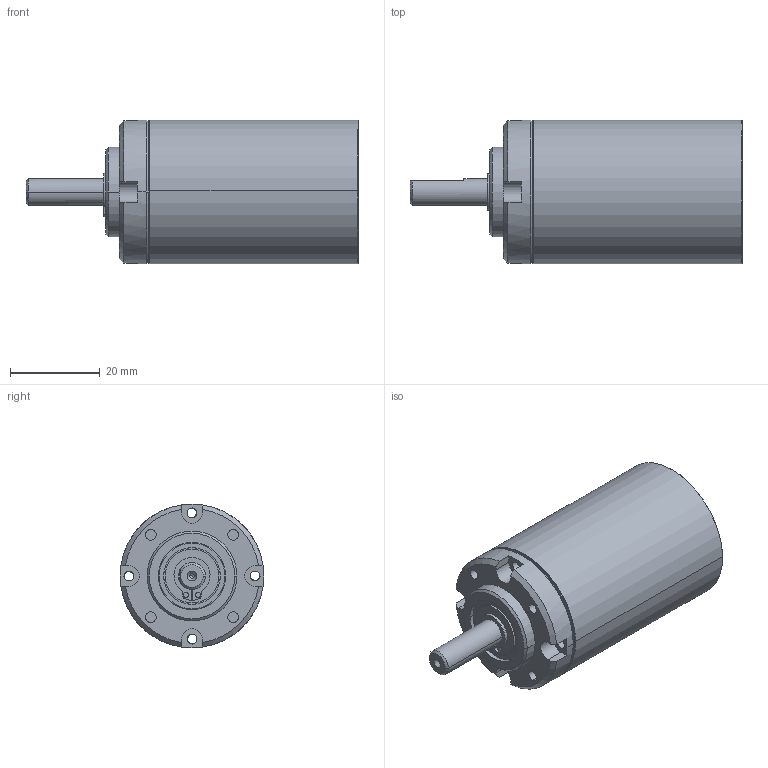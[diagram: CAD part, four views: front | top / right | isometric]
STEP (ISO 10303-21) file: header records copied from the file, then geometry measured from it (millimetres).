
FILE_DESCRIPTION((''),'2;1');
FILE_NAME('GP32BZ','2016-10-07T',('mmagpetk'),(''),'CREO PARAMETRIC BY PTC INC, 2016050','CREO PARAMETRIC BY PTC INC, 2016050','');
FILE_SCHEMA(('CONFIG_CONTROL_DESIGN'));
Length unit declared in the file: millimetre
Products named in the file (1): GP32BZ
Bounding box: 73.9 x 32 x 32 mm (x, y, z)
Volume: 42689.9 mm3; surface area: 9616.4 mm2
Topology: 1 solids, 1 shells, 158 faces, 363 edges, 229 vertices
Faces by surface type: cylinder 72, plane 48, cone 34, torus 4
Entity records: 6119 total; most frequent: DIRECTION 861, CARTESIAN_POINT 823, ORIENTED_EDGE 722, PRESENTATION_STYLE_ASSIGNMENT 408, STYLED_ITEM 362, CURVE_STYLE 361, EDGE_CURVE 361, AXIS2_PLACEMENT_3D 354
